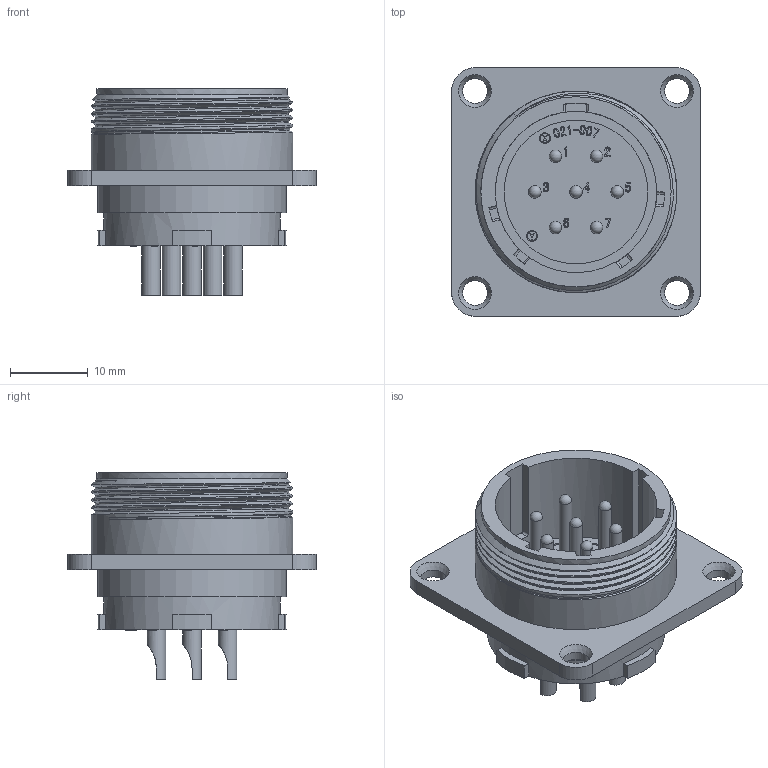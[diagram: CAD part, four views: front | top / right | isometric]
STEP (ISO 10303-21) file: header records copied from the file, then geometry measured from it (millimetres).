
FILE_DESCRIPTION (( 'STEP AP203' ), '1' );
FILE_NAME ('JMR2107M-D.STEP', '2019-01-11T00:45:03', ( '' ), ( '' ), 'SwSTEP 2.0', 'SolidWorks 2018', '' );
FILE_SCHEMA (( 'CONFIG_CONTROL_DESIGN' ));
Length unit declared in the file: millimetre
Products named in the file (1): JMR2107M-D
Bounding box: 32 x 32 x 26.6 mm (x, y, z)
Volume: 6416.6 mm3; surface area: 5869.4 mm2
Topology: 1 solids, 1 shells, 604 faces, 1662 edges, 1097 vertices
Faces by surface type: plane 272, bspline 235, cylinder 77, cone 13, sphere 7
Full cylindrical faces by diameter (mm): 1.2 x3, 1.4 x3, 1.6 x7, 1.7 x7, 2.4 x7, 3.2 x4, 18.1 x1, 18.5 x1, 20.8 x1, 22.8 x1, 24.3 x1, 24.5 x1, 25.96 x4
Entity records: 26677 total; most frequent: CARTESIAN_POINT 13433, ORIENTED_EDGE 3094, DIRECTION 1909, EDGE_CURVE 1547, VERTEX_POINT 1051, VECTOR 907, LINE 907, EDGE_LOOP 708
